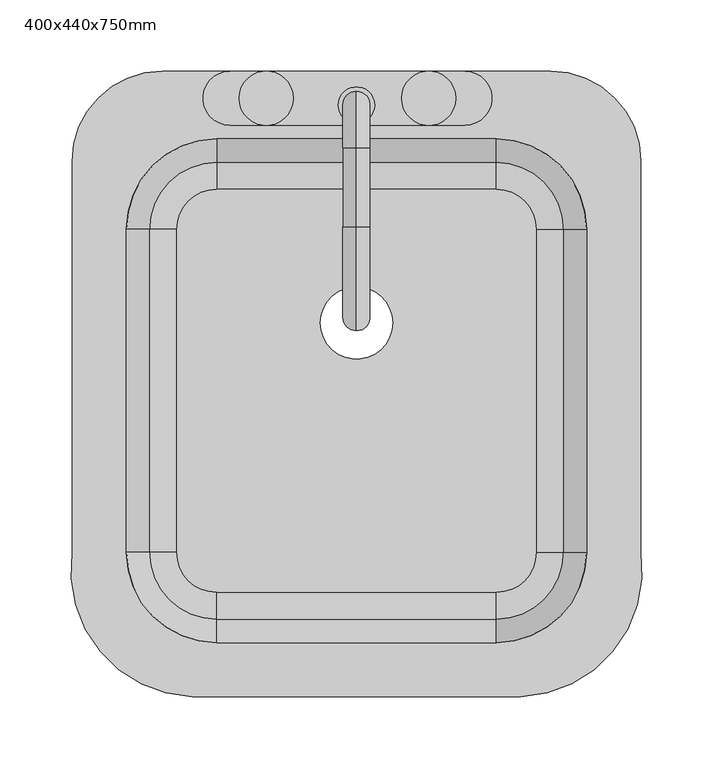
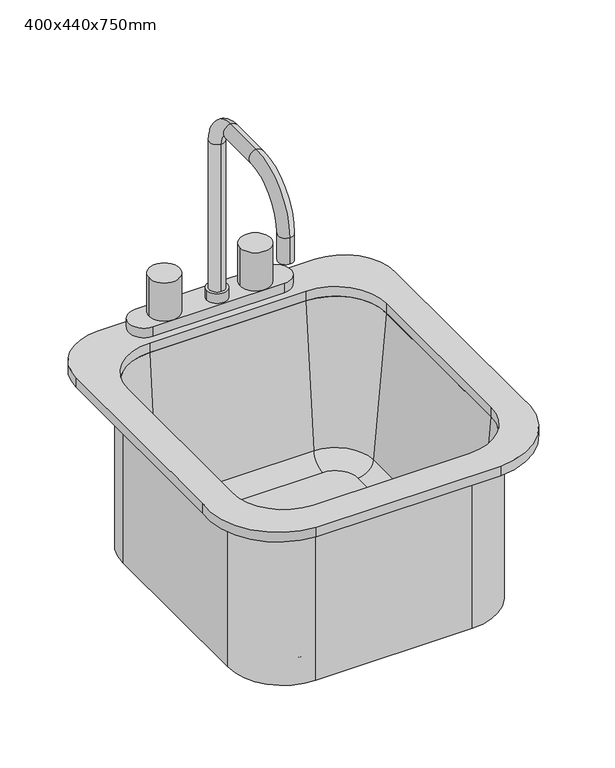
"""IFC4 building model written with IfcOpenShell, lengths in millimetres: flow terminal geometry, ARQ_LAVAPLATOS : 400x440x750mm."""

from ifc_helpers import new_model, si_unit, point, frame, frame_2d, origin, place, context, project, spatial, polyline, circle_curve, ellipse_curve, trimmed, segment, composite_curve, outline, extrude, source, transform, mapped, element, save
from ifc_brep_helpers import plane_surface, cylinder_surface, revolved_surface, advanced_brep


def flow_terminal_400x440x750mm_a241357f(model_context):
    return source(origin(), model_context, "Body", "SolidModel", [
        advanced_brep(
        [(183.9392406, 69.0204011, 534.1), (114.0892406, 138.8704011, 534.1), (114.0892406, 138.8704011, 750.0), (183.9392406, 69.0204011, 750.0), (183.9392406, -158.2545989, 534.1), (114.0892406, -228.1045989, 534.1), (-82.7107594, -228.1045989, 534.1), (-152.5607594, -158.2545989, 534.1), (-152.5607594, 69.0204011, 534.1), (-82.7107594, 138.8704011, 534.1), (-9.7107594, 3.175, 534.1), (41.0892406, 3.175, 534.1), (142.0776588, 69.0204011, 543.625), (114.0892406, 97.0088193, 543.625), (-82.7107594, 97.0088193, 543.625), (-110.6991776, 69.0204011, 543.625), (-110.6991776, -158.2545989, 543.625), (-82.7107594, -186.2430171, 543.625), (114.0892406, -186.2430171, 543.625), (142.0776588, -158.2545989, 543.625), (-9.7107594, 3.175, 543.625), (41.0892406, 3.175, 543.625), (161.0551678, 69.0204011, 561.0146831), (114.0892406, 115.9863283, 561.0146831), (177.5892406, 69.0204011, 750.0), (114.0892406, 132.5204011, 750.0), (183.9392406, -158.2545989, 750.0), (161.0551678, -158.2545989, 561.0146831), (177.5892406, -158.2545989, 750.0), (114.0892406, -228.1045989, 750.0), (114.0892406, -205.2205261, 561.0146831), (114.0892406, -221.7545989, 750.0), (-82.7107594, -228.1045989, 750.0), (-82.7107594, -205.2205261, 561.0146831), (-82.7107594, -221.7545989, 750.0), (-152.5607594, -158.2545989, 750.0), (-129.6766866, -158.2545989, 561.0146831), (-146.2107594, -158.2545989, 750.0), (-152.5607594, 69.0204011, 750.0), (-129.6766866, 69.0204011, 561.0146831), (-146.2107594, 69.0204011, 750.0), (-82.7107594, 138.8704011, 750.0), (-82.7107594, 115.9863283, 561.0146831), (-82.7107594, 132.5204011, 750.0)],
        [
            (0, 1, circle_curve(frame((114.0892406, 69.0204011, 534.1), z_axis=(0.0, 0.0, 1.0), x_axis=(0.0, 1.0, 0.0)), 69.85)),
            (1, 2),
            (2, 3, circle_curve(frame((114.0892406, 69.0204011, 750.0), z_axis=(0.0, 0.0, -1.0), x_axis=(0.0, 1.0, 0.0)), 69.85)),
            (3, 0),
            (0, 4),
            (4, 5, circle_curve(frame((114.0892406, -158.2545989, 534.1), z_axis=(0.0, 0.0, -1.0), x_axis=(1.0, 0.0, 0.0)), 69.85)),
            (5, 6),
            (6, 7, circle_curve(frame((-82.7107594, -158.2545989, 534.1), z_axis=(0.0, 0.0, -1.0), x_axis=(0.0, -1.0, 0.0)), 69.85)),
            (7, 8),
            (8, 9, circle_curve(frame((-82.7107594, 69.0204011, 534.1), z_axis=(0.0, 0.0, -1.0), x_axis=(-1.0, 0.0, 0.0)), 69.85)),
            (9, 1),
            (10, 11, circle_curve(frame((15.6892406, 3.175, 534.1), z_axis=(0.0, 0.0, 1.0), x_axis=(1.0, 0.0, 0.0)), 25.4)),
            (11, 10, circle_curve(frame((15.6892406, 3.175, 534.1), z_axis=(0.0, 0.0, 1.0), x_axis=(1.0, 0.0, 0.0)), 25.4)),
            (12, 13, circle_curve(frame((114.0892406, 69.0204011, 543.625), z_axis=(0.0, 0.0, 1.0), x_axis=(0.0, 1.0, 0.0)), 27.9884182)),
            (13, 14),
            (14, 15, circle_curve(frame((-82.7107594, 69.0204011, 543.625), z_axis=(0.0, 0.0, 1.0), x_axis=(-1.0, 0.0, 0.0)), 27.9884182)),
            (15, 16),
            (16, 17, circle_curve(frame((-82.7107594, -158.2545989, 543.625), z_axis=(0.0, 0.0, 1.0), x_axis=(0.0, -1.0, 0.0)), 27.9884182)),
            (17, 18),
            (18, 19, circle_curve(frame((114.0892406, -158.2545989, 543.625), z_axis=(0.0, 0.0, 1.0), x_axis=(1.0, 0.0, 0.0)), 27.9884182)),
            (19, 12),
            (20, 21, circle_curve(frame((15.6892406, 3.175, 543.625), z_axis=(0.0, 0.0, -1.0), x_axis=(1.0, 0.0, 0.0)), 25.4)),
            (21, 20, circle_curve(frame((15.6892406, 3.175, 543.625), z_axis=(0.0, 0.0, -1.0), x_axis=(1.0, 0.0, 0.0)), 25.4)),
            (12, 22, circle_curve(frame((142.0776588, 69.0204011, 562.675), z_axis=(0.0, -1.0, 0.0), x_axis=(1.0, 0.0, 0.0)), 19.05)),
            (22, 23, circle_curve(frame((114.0892406, 69.0204011, 561.0146831), z_axis=(0.0, 0.0, 1.0), x_axis=(0.0, 1.0, 0.0)), 46.9659272)),
            (23, 13, circle_curve(frame((114.0892406, 97.0088193, 562.675), z_axis=(-1.0, 0.0, 0.0), x_axis=(0.0, 1.0, 0.0)), 19.05)),
            (22, 24),
            (24, 25, circle_curve(frame((114.0892406, 69.0204011, 750.0), z_axis=(0.0, 0.0, 1.0), x_axis=(0.0, 1.0, 0.0)), 63.5)),
            (25, 23),
            (2, 25),
            (24, 3),
            (3, 26),
            (26, 4),
            (19, 27, circle_curve(frame((142.0776588, -158.2545989, 562.675), z_axis=(0.0, -1.0, 0.0), x_axis=(1.0, 0.0, 0.0)), 19.05)),
            (27, 22),
            (27, 28),
            (28, 24),
            (28, 26),
            (26, 29, circle_curve(frame((114.0892406, -158.2545989, 750.0), z_axis=(0.0, 0.0, -1.0), x_axis=(1.0, 0.0, 0.0)), 69.85)),
            (29, 5),
            (18, 30, circle_curve(frame((114.0892406, -186.2430171, 562.675), z_axis=(-1.0, 0.0, 0.0), x_axis=(0.0, -1.0, 0.0)), 19.05)),
            (30, 27, circle_curve(frame((114.0892406, -158.2545989, 561.0146831), z_axis=(0.0, 0.0, 1.0), x_axis=(1.0, 0.0, 0.0)), 46.9659272)),
            (30, 31),
            (31, 28, circle_curve(frame((114.0892406, -158.2545989, 750.0), z_axis=(0.0, 0.0, 1.0), x_axis=(1.0, 0.0, 0.0)), 63.5)),
            (31, 29),
            (29, 32),
            (32, 6),
            (17, 33, circle_curve(frame((-82.7107594, -186.2430171, 562.675), z_axis=(-1.0, 0.0, 0.0), x_axis=(0.0, -1.0, 0.0)), 19.05)),
            (33, 30),
            (33, 34),
            (34, 31),
            (34, 32),
            (32, 35, circle_curve(frame((-82.7107594, -158.2545989, 750.0), z_axis=(0.0, 0.0, -1.0), x_axis=(0.0, -1.0, 0.0)), 69.85)),
            (35, 7),
            (16, 36, circle_curve(frame((-110.6991776, -158.2545989, 562.675), z_axis=(0.0, 1.0, 0.0), x_axis=(-1.0, 0.0, 0.0)), 19.05)),
            (36, 33, circle_curve(frame((-82.7107594, -158.2545989, 561.0146831), z_axis=(0.0, 0.0, 1.0), x_axis=(0.0, -1.0, 0.0)), 46.9659272)),
            (36, 37),
            (37, 34, circle_curve(frame((-82.7107594, -158.2545989, 750.0), z_axis=(0.0, 0.0, 1.0), x_axis=(0.0, -1.0, 0.0)), 63.5)),
            (37, 35),
            (35, 38),
            (38, 8),
            (15, 39, circle_curve(frame((-110.6991776, 69.0204011, 562.675), z_axis=(0.0, 1.0, 0.0), x_axis=(-1.0, 0.0, 0.0)), 19.05)),
            (39, 36),
            (39, 40),
            (40, 37),
            (40, 38),
            (38, 41, circle_curve(frame((-82.7107594, 69.0204011, 750.0), z_axis=(0.0, 0.0, -1.0), x_axis=(-1.0, 0.0, 0.0)), 69.85)),
            (41, 9),
            (14, 42, circle_curve(frame((-82.7107594, 97.0088193, 562.675), z_axis=(1.0, 0.0, 0.0), x_axis=(0.0, 1.0, 0.0)), 19.05)),
            (42, 39, circle_curve(frame((-82.7107594, 69.0204011, 561.0146831), z_axis=(0.0, 0.0, 1.0), x_axis=(-1.0, 0.0, 0.0)), 46.9659272)),
            (42, 43),
            (43, 40, circle_curve(frame((-82.7107594, 69.0204011, 750.0), z_axis=(0.0, 0.0, 1.0), x_axis=(-1.0, 0.0, 0.0)), 63.5)),
            (43, 41),
            (41, 2),
            (23, 42),
            (25, 43),
            (20, 10),
            (11, 21),
        ],
        [
            cylinder_surface(frame((114.0892406, 69.0204011, 0.0), z_axis=(0.0, 0.0, -1.0), x_axis=(0.0, 1.0, 0.0)), 69.85),
            plane_surface(frame((114.0892406, 69.0204011, 534.1), z_axis=(0.0, 0.0, -1.0), x_axis=(0.0, 1.0, 0.0))),
            plane_surface(frame((114.0892406, 69.0204011, 543.625), z_axis=(0.0, 0.0, 1.0), x_axis=(0.0, 1.0, 0.0))),
            revolved_surface(trimmed(ellipse_curve(frame((114.0892406, 97.0088193, 562.675), z_axis=(1.0, 0.0, 0.0), x_axis=(0.0, 1.0, 0.0)), 19.05, 19.05), [point((114.0892406, 97.0088193, 543.625))], [point((114.0892406, 115.9863283, 561.0146831))], True, "CARTESIAN"), (114.0892406, 69.0204011, 0.0), (0.0, 0.0, -1.0)),
            revolved_surface(polyline([(114.0892406, 115.9863283, 561.0146831), (114.0892406, 132.5204011, 750.0)]), (114.0892406, 69.0204011, 0.0), (0.0, 0.0, -1.0)),
            plane_surface(frame((114.0892406, 69.0204011, 750.0), z_axis=(0.0, 0.0, 1.0), x_axis=(0.0, 1.0, 0.0))),
            plane_surface(frame((183.9392406, 69.0204011, 750.0), z_axis=(1.0, 0.0, 0.0), x_axis=(0.0, -1.0, 0.0))),
            revolved_surface(polyline([(161.1276588, -158.25459889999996, 562.675), (161.1276588, 69.0204011, 562.675)]), (142.0776588, 69.0204011, 562.675), (0.0, -1.0, 0.0)),
            plane_surface(frame((161.0551678, 69.0204011, 561.0146831), z_axis=(-0.9961946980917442, 0.0, 0.0871557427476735), x_axis=(0.0, -1.0, 0.0))),
            plane_surface(frame((177.5892406, 69.0204011, 750.0), z_axis=(0.0, 0.0, 1.0), x_axis=(0.0, -1.0, 0.0))),
            cylinder_surface(frame((114.0892406, -158.2545989, 0.0), z_axis=(0.0, 0.0, -1.0), x_axis=(1.0, 0.0, 0.0)), 69.85),
            revolved_surface(trimmed(ellipse_curve(frame((142.0776588, -158.2545989, 562.675), z_axis=(0.0, -1.0, 0.0), x_axis=(1.0, 0.0, 0.0)), 19.05, 19.05), [point((142.0776588, -158.2545989, 543.625))], [point((161.0551678, -158.2545989, 561.0146831))], True, "CARTESIAN"), (114.0892406, -158.2545989, 0.0), (0.0, 0.0, -1.0)),
            revolved_surface(polyline([(161.0551678, -158.2545989, 561.0146831), (177.5892406, -158.2545989, 750.0)]), (114.0892406, -158.2545989, 0.0), (0.0, 0.0, -1.0)),
            plane_surface(frame((114.0892406, -158.2545989, 750.0), z_axis=(0.0, 0.0, 1.0), x_axis=(1.0, 0.0, 0.0))),
            plane_surface(frame((114.0892406, -228.1045989, 750.0), z_axis=(0.0, -1.0, 0.0), x_axis=(-1.0, 0.0, 0.0))),
            revolved_surface(polyline([(-82.71075940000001, -205.29301710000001, 562.675), (114.0892406, -205.29301710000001, 562.675)]), (114.0892406, -186.2430171, 562.675), (-1.0, 0.0, 0.0)),
            plane_surface(frame((114.0892406, -205.2205261, 561.0146831), z_axis=(0.0, 0.9961946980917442, 0.0871557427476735), x_axis=(-1.0, 0.0, 0.0))),
            plane_surface(frame((114.0892406, -221.7545989, 750.0), z_axis=(0.0, 0.0, 1.0), x_axis=(-1.0, 0.0, 0.0))),
            cylinder_surface(frame((-82.7107594, -158.2545989, 0.0), z_axis=(0.0, 0.0, -1.0), x_axis=(0.0, -1.0, 0.0)), 69.85),
            revolved_surface(trimmed(ellipse_curve(frame((-82.7107594, -186.2430171, 562.675), z_axis=(-1.0, 0.0, 0.0), x_axis=(0.0, -1.0, 0.0)), 19.05, 19.05), [point((-82.7107594, -186.2430171, 543.625))], [point((-82.7107594, -205.2205261, 561.0146831))], True, "CARTESIAN"), (-82.7107594, -158.2545989, 0.0), (0.0, 0.0, -1.0)),
            revolved_surface(polyline([(-82.7107594, -205.2205261, 561.0146831), (-82.7107594, -221.7545989, 750.0)]), (-82.7107594, -158.2545989, 0.0), (0.0, 0.0, -1.0)),
            plane_surface(frame((-82.7107594, -158.2545989, 750.0), z_axis=(0.0, 0.0, 1.0), x_axis=(0.0, -1.0, 0.0))),
            plane_surface(frame((-152.5607594, -158.2545989, 750.0), z_axis=(-1.0, 0.0, 0.0), x_axis=(0.0, 1.0, 0.0))),
            revolved_surface(polyline([(-129.7491776, 69.02040109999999, 562.675), (-129.7491776, -158.2545989, 562.675)]), (-110.6991776, -158.2545989, 562.675), (0.0, 1.0, 0.0)),
            plane_surface(frame((-129.6766866, -158.2545989, 561.0146831), z_axis=(0.9961946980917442, 0.0, 0.0871557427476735), x_axis=(0.0, 1.0, 0.0))),
            plane_surface(frame((-146.2107594, -158.2545989, 750.0), z_axis=(0.0, 0.0, 1.0), x_axis=(0.0, 1.0, 0.0))),
            cylinder_surface(frame((-82.7107594, 69.0204011, 0.0), z_axis=(0.0, 0.0, -1.0), x_axis=(-1.0, 0.0, 0.0)), 69.85),
            revolved_surface(trimmed(ellipse_curve(frame((-110.6991776, 69.0204011, 562.675), z_axis=(0.0, 1.0, 0.0), x_axis=(-1.0, 0.0, 0.0)), 19.05, 19.05), [point((-110.6991776, 69.0204011, 543.625))], [point((-129.6766866, 69.0204011, 561.0146831))], True, "CARTESIAN"), (-82.7107594, 69.0204011, 0.0), (0.0, 0.0, -1.0)),
            revolved_surface(polyline([(-129.6766866, 69.0204011, 561.0146831), (-146.2107594, 69.0204011, 750.0)]), (-82.7107594, 69.0204011, 0.0), (0.0, 0.0, -1.0)),
            plane_surface(frame((-82.7107594, 69.0204011, 750.0), z_axis=(0.0, 0.0, 1.0), x_axis=(-1.0, 0.0, 0.0))),
            plane_surface(frame((-82.7107594, 138.8704011, 750.0), z_axis=(0.0, 1.0, 0.0), x_axis=(1.0, 0.0, 0.0))),
            revolved_surface(polyline([(114.08924060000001, 116.0588193, 562.675), (-82.7107594, 116.0588193, 562.675)]), (-82.7107594, 97.0088193, 562.675), (1.0, 0.0, 0.0)),
            plane_surface(frame((-82.7107594, 115.9863283, 561.0146831), z_axis=(0.0, -0.9961946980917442, 0.0871557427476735), x_axis=(1.0, 0.0, 0.0))),
            plane_surface(frame((-82.7107594, 132.5204011, 750.0), z_axis=(0.0, 0.0, 1.0), x_axis=(1.0, 0.0, 0.0))),
            revolved_surface(polyline([(41.0892406, 3.175, 534.1), (41.0892406, 3.175, 543.625)]), (15.6892406, 3.175, 0.0), (0.0, 0.0, -1.0)),
        ],
        [
            (0, [[1, 2, 3, 4]]),
            (1, [[-1, 5, 6, 7, 8, 9, 10, 11], [12, 13]]),
            (2, [[14, 15, 16, 17, 18, 19, 20, 21], [22, 23]]),
            (3, [[-14, 24, 25, 26]]),
            (4, [[-25, 27, 28, 29]]),
            (5, [[-3, 30, -28, 31]]),
            (6, [[-4, 32, 33, -5]]),
            (7, [[-24, -21, 34, 35]]),
            (8, [[-27, -35, 36, 37]]),
            (9, [[-31, -37, 38, -32]]),
            (10, [[-33, 39, 40, -6]]),
            (11, [[-34, -20, 41, 42]]),
            (12, [[-36, -42, 43, 44]]),
            (13, [[-38, -44, 45, -39]]),
            (14, [[-40, 46, 47, -7]]),
            (15, [[-41, -19, 48, 49]]),
            (16, [[-43, -49, 50, 51]]),
            (17, [[-45, -51, 52, -46]]),
            (18, [[-47, 53, 54, -8]]),
            (19, [[-48, -18, 55, 56]]),
            (20, [[-50, -56, 57, 58]]),
            (21, [[-52, -58, 59, -53]]),
            (22, [[-54, 60, 61, -9]]),
            (23, [[-55, -17, 62, 63]]),
            (24, [[-57, -63, 64, 65]]),
            (25, [[-59, -65, 66, -60]]),
            (26, [[-61, 67, 68, -10]]),
            (27, [[-62, -16, 69, 70]]),
            (28, [[-64, -70, 71, 72]]),
            (29, [[-66, -72, 73, -67]]),
            (30, [[-2, -11, -68, 74]]),
            (31, [[-26, 75, -69, -15]]),
            (32, [[-29, 76, -71, -75]]),
            (33, [[-30, -74, -73, -76]]),
            (34, [[-22, 77, -13, 78]]),
            (34, [[-23, -78, -12, -77]]),
        ],
    ),
        advanced_brep(
        [(91.8892406, 180.1454011, 762.7), (91.8892406, 142.0454011, 762.7), (-73.2107594, 142.0454011, 762.7), (-73.2107594, 180.1454011, 762.7), (15.6892406, 165.8579011, 983.3625), (15.6892406, 146.8079011, 983.3625), (15.6892406, 146.8079011, 788.1), (15.6892406, 165.8579011, 788.1), (15.6892406, 126.1704011, 1023.05), (15.6892406, 126.1704011, 1004.0), (15.6892406, 70.6079011, 1023.05), (15.6892406, 70.6079011, 1004.0), (15.6892406, -2.4170989, 950.025), (15.6892406, 16.6329011, 950.025), (15.6892406, -2.4170989, 915.1), (15.6892406, 16.6329011, 915.1), (2.9892406, 156.3329011, 788.1), (28.3892406, 156.3329011, 788.1), (2.9892406, 156.3329011, 775.2), (28.3892406, 156.3329011, 775.2), (91.8892406, 180.1454011, 775.2), (-73.2107594, 180.1454011, 775.2), (-73.2107594, 142.0454011, 775.2), (91.8892406, 142.0454011, 775.2)],
        [
            (0, 1, circle_curve(frame((91.8892406, 161.0954011, 762.7), z_axis=(0.0, 0.0, -1.0), x_axis=(1.0, 0.0, 0.0)), 19.05)),
            (1, 2),
            (2, 3, circle_curve(frame((-73.2107594, 161.0954011, 762.7), z_axis=(0.0, 0.0, -1.0), x_axis=(1.0, 0.0, 0.0)), 19.05)),
            (3, 0),
            (4, 5, circle_curve(frame((15.6892406, 156.3329011, 983.3625), z_axis=(0.0, 0.0, -1.0), x_axis=(0.0, -1.0, 0.0)), 9.525)),
            (5, 6),
            (6, 7, circle_curve(frame((15.6892406, 156.3329011, 788.1), z_axis=(0.0, 0.0, 1.0), x_axis=(0.0, -1.0, 0.0)), 9.525)),
            (7, 4),
            (5, 4, circle_curve(frame((15.6892406, 156.3329011, 983.3625), z_axis=(0.0, 0.0, -1.0), x_axis=(0.0, -1.0, 0.0)), 9.525)),
            (7, 6, circle_curve(frame((15.6892406, 156.3329011, 788.1), z_axis=(0.0, 0.0, 1.0), x_axis=(0.0, -1.0, 0.0)), 9.525)),
            (4, 8, circle_curve(frame((15.6892406, 126.1704011, 983.3625), z_axis=(1.0, 0.0, 0.0), x_axis=(0.0, 1.0, 0.0)), 39.6875)),
            (8, 9, circle_curve(frame((15.6892406, 126.1704011, 1013.525), z_axis=(0.0, 1.0, 0.0), x_axis=(0.0, 0.0, -1.0)), 9.525)),
            (9, 5, circle_curve(frame((15.6892406, 126.1704011, 983.3625), z_axis=(-1.0, 0.0, 0.0), x_axis=(0.0, 1.0, 0.0)), 20.6375)),
            (9, 8, circle_curve(frame((15.6892406, 126.1704011, 1013.525), z_axis=(0.0, 1.0, 0.0), x_axis=(0.0, 0.0, -1.0)), 9.525)),
            (8, 10),
            (10, 11, circle_curve(frame((15.6892406, 70.6079011, 1013.525), z_axis=(0.0, 1.0, 0.0), x_axis=(0.0, 0.0, -1.0)), 9.525)),
            (11, 9),
            (11, 10, circle_curve(frame((15.6892406, 70.6079011, 1013.525), z_axis=(0.0, 1.0, 0.0), x_axis=(0.0, 0.0, -1.0)), 9.525)),
            (10, 12, circle_curve(frame((15.6892406, 70.6079011, 950.025), z_axis=(1.0, 0.0, 0.0), x_axis=(0.0, 0.0, 1.0)), 73.025)),
            (12, 13, circle_curve(frame((15.6892406, 7.1079011, 950.025), z_axis=(0.0, 0.0, 1.0), x_axis=(0.0, 1.0, 0.0)), 9.525)),
            (13, 11, circle_curve(frame((15.6892406, 70.6079011, 950.025), z_axis=(-1.0, 0.0, 0.0), x_axis=(0.0, 0.0, 1.0)), 53.975)),
            (13, 12, circle_curve(frame((15.6892406, 7.1079011, 950.025), z_axis=(0.0, 0.0, 1.0), x_axis=(0.0, 1.0, 0.0)), 9.525)),
            (14, 15, circle_curve(frame((15.6892406, 7.1079011, 915.1), z_axis=(0.0, 0.0, -1.0), x_axis=(0.0, 1.0, 0.0)), 9.525)),
            (15, 14, circle_curve(frame((15.6892406, 7.1079011, 915.1), z_axis=(0.0, 0.0, -1.0), x_axis=(0.0, 1.0, 0.0)), 9.525)),
            (12, 14),
            (15, 13),
            (16, 17, circle_curve(frame((15.6892406, 156.3329011, 788.1), z_axis=(0.0, 0.0, 1.0), x_axis=(1.0, 0.0, 0.0)), 12.7)),
            (17, 16, circle_curve(frame((15.6892406, 156.3329011, 788.1), z_axis=(0.0, 0.0, 1.0), x_axis=(1.0, 0.0, 0.0)), 12.7)),
            (16, 18),
            (18, 19, circle_curve(frame((15.6892406, 156.3329011, 775.2), z_axis=(0.0, 0.0, 1.0), x_axis=(1.0, 0.0, 0.0)), 12.7)),
            (19, 17),
            (19, 18, circle_curve(frame((15.6892406, 156.3329011, 775.2), z_axis=(0.0, 0.0, 1.0), x_axis=(1.0, 0.0, 0.0)), 12.7)),
            (20, 21),
            (21, 22, circle_curve(frame((-73.2107594, 161.0954011, 775.2), z_axis=(0.0, 0.0, 1.0), x_axis=(1.0, 0.0, 0.0)), 19.05)),
            (22, 23),
            (23, 20, circle_curve(frame((91.8892406, 161.0954011, 775.2), z_axis=(0.0, 0.0, 1.0), x_axis=(1.0, 0.0, 0.0)), 19.05)),
            (20, 0),
            (3, 21),
            (2, 22),
            (1, 23),
        ],
        [
            plane_surface(frame((15.6892406, 146.8079011, 762.7), z_axis=(0.0, 0.0, -1.0), x_axis=(1.0, 0.0, 0.0))),
            cylinder_surface(frame((15.6892406, 156.3329011, 762.7), z_axis=(0.0, 0.0, -1.0), x_axis=(0.0, -1.0, 0.0)), 9.525),
            revolved_surface(trimmed(ellipse_curve(frame((15.6892406, 156.3329011, 983.3625), z_axis=(0.0, 0.0, -1.0), x_axis=(0.0, -1.0, 0.0)), 9.525, 9.525), [point((15.6892406, 165.8579011, 983.3625))], [point((15.6892406, 146.8079011, 983.3625))], True, "CARTESIAN"), (15.6892406, 126.1704011, 983.3625), (1.0, 0.0, 0.0)),
            revolved_surface(trimmed(ellipse_curve(frame((15.6892406, 156.3329011, 983.3625), z_axis=(0.0, 0.0, -1.0), x_axis=(0.0, -1.0, 0.0)), 9.525, 9.525), [point((15.6892406, 146.8079011, 983.3625))], [point((15.6892406, 165.8579011, 983.3625))], True, "CARTESIAN"), (15.6892406, 126.1704011, 983.3625), (1.0, 0.0, 0.0)),
            cylinder_surface(frame((15.6892406, 126.1704011, 1013.525), z_axis=(0.0, 1.0, 0.0), x_axis=(0.0, 0.0, -1.0)), 9.525),
            revolved_surface(trimmed(ellipse_curve(frame((15.6892406, 70.6079011, 1013.525), z_axis=(0.0, 1.0, 0.0), x_axis=(0.0, 0.0, -1.0)), 9.525, 9.525), [point((15.6892406, 70.6079011, 1023.05))], [point((15.6892406, 70.6079011, 1004.0))], True, "CARTESIAN"), (15.6892406, 70.6079011, 950.025), (1.0, 0.0, 0.0)),
            revolved_surface(trimmed(ellipse_curve(frame((15.6892406, 70.6079011, 1013.525), z_axis=(0.0, 1.0, 0.0), x_axis=(0.0, 0.0, -1.0)), 9.525, 9.525), [point((15.6892406, 70.6079011, 1004.0))], [point((15.6892406, 70.6079011, 1023.05))], True, "CARTESIAN"), (15.6892406, 70.6079011, 950.025), (1.0, 0.0, 0.0)),
            plane_surface(frame((15.6892406, -2.4170989, 915.1), z_axis=(0.0, 0.0, -1.0), x_axis=(-1.0, 0.0, 0.0))),
            cylinder_surface(frame((15.6892406, 7.1079011, 950.025), z_axis=(0.0, 0.0, 1.0), x_axis=(0.0, 1.0, 0.0)), 9.525),
            plane_surface(frame((28.3892406, 156.3329011, 788.1), z_axis=(0.0, 0.0, 1.0), x_axis=(0.0, 1.0, 0.0))),
            cylinder_surface(frame((15.6892406, 156.3329011, 762.7), z_axis=(0.0, 0.0, 1.0), x_axis=(1.0, 0.0, 0.0)), 12.7),
            plane_surface(frame((-73.2107594, 180.1454011, 775.2), z_axis=(0.0, 0.0, 1.0), x_axis=(-1.0, 0.0, 0.0))),
            plane_surface(frame((91.8892406, 180.1454011, 775.2), z_axis=(0.0, 1.0, 0.0), x_axis=(0.0, 0.0, -1.0))),
            cylinder_surface(frame((-73.2107594, 161.0954011, 762.7), z_axis=(0.0, 0.0, 1.0), x_axis=(1.0, 0.0, 0.0)), 19.05),
            plane_surface(frame((-73.2107594, 142.0454011, 775.2), z_axis=(0.0, -1.0, 0.0), x_axis=(0.0, 0.0, -1.0))),
            cylinder_surface(frame((91.8892406, 161.0954011, 762.7), z_axis=(0.0, 0.0, 1.0), x_axis=(1.0, 0.0, 0.0)), 19.05),
        ],
        [
            (0, [[1, 2, 3, 4]]),
            (1, [[5, 6, 7, 8]]),
            (1, [[9, -8, 10, -6]]),
            (2, [[-5, 11, 12, 13]]),
            (3, [[-9, -13, 14, -11]]),
            (4, [[-12, 15, 16, 17]]),
            (4, [[-14, -17, 18, -15]]),
            (5, [[-16, 19, 20, 21]]),
            (6, [[-18, -21, 22, -19]]),
            (7, [[23, 24]]),
            (8, [[-20, 25, -24, 26]]),
            (8, [[-22, -26, -23, -25]]),
            (9, [[27, 28], [-7, -10]]),
            (10, [[-27, 29, 30, 31]]),
            (10, [[-28, -31, 32, -29]]),
            (11, [[33, 34, 35, 36], [-30, -32]]),
            (12, [[-33, 37, -4, 38]]),
            (13, [[-34, -38, -3, 39]]),
            (14, [[-35, -39, -2, 40]]),
            (15, [[-36, -40, -1, -37]]),
        ],
    ),
        extrude(outline(composite_curve([segment(trimmed(circle_curve(frame_2d((-47.8107594, 161.0954011)), 19.05), [point((-66.8607594, 161.0954011))], [point((-28.7607594, 161.0954011))], False, "CARTESIAN"), True, "CONTINUOUS"), segment(trimmed(circle_curve(frame_2d((-47.8107594, 161.0954011)), 19.05), [point((-28.7607594, 161.0954011))], [point((-66.8607594, 161.0954011))], False, "CARTESIAN"), True, "CONTINUOUS")], self_intersect=False)), frame((0.0, 0.0, 762.7), z_axis=(0.0, 0.0, 1.0), x_axis=(1.0, 0.0, 0.0)), (0.0, 0.0, 1.0), 63.5),
        extrude(outline(composite_curve([segment(trimmed(circle_curve(frame_2d((66.4892406, 161.0954011)), 19.05), [point((47.4392406, 161.0954011))], [point((85.5392406, 161.0954011))], False, "CARTESIAN"), True, "CONTINUOUS"), segment(trimmed(circle_curve(frame_2d((66.4892406, 161.0954011)), 19.05), [point((85.5392406, 161.0954011))], [point((47.4392406, 161.0954011))], False, "CARTESIAN"), True, "CONTINUOUS")], self_intersect=False)), frame((0.0, 0.0, 762.7), z_axis=(0.0, 0.0, 1.0), x_axis=(1.0, 0.0, 0.0)), (0.0, 0.0, 1.0), 63.5),
        extrude(outline(composite_curve([segment(trimmed(circle_curve(frame_2d((-96.1534746, -170.8793432)), 89.0566732), [point((-99.9606923, -259.8545989))], [point((-184.3107593, -158.2545982))], False, "CARTESIAN"), True, "CONTINUOUS"), segment(polyline([(-184.3107593, -158.2545982), (-184.3107593, 116.6454011)]), True, "CONTINUOUS"), segment(trimmed(circle_curve(frame_2d((-120.8107593, 116.6454011)), 63.5), [point((-184.3107593, 116.6454011))], [point((-120.8107593, 180.1454011))], False, "CARTESIAN"), True, "CONTINUOUS"), segment(polyline([(-120.8107593, 180.1454011), (152.1892406, 180.1454011)]), True, "CONTINUOUS"), segment(trimmed(circle_curve(frame_2d((152.1892406, 116.6454011)), 63.5), [point((152.1892406, 180.1454011))], [point((215.6892406, 116.6454011))], False, "CARTESIAN"), True, "CONTINUOUS"), segment(polyline([(215.6892406, 116.6454011), (215.6892406, -158.2545989)]), True, "CONTINUOUS"), segment(trimmed(circle_curve(frame_2d((127.5319557, -170.8793432)), 89.0566732), [point((215.6892406, -158.2545989))], [point((131.3391735, -259.8545989))], False, "CARTESIAN"), True, "CONTINUOUS"), segment(polyline([(131.3391735, -259.8545989), (-99.9606923, -259.8545989)]), True, "CONTINUOUS")], self_intersect=False), holes=[composite_curve([segment(polyline([(114.0892406, 132.5204011), (-82.7107594, 132.5204011)]), True, "CONTINUOUS"), segment(trimmed(circle_curve(frame_2d((-82.7107594, 69.0204011)), 63.5), [point((-82.7107594, 132.5204011))], [point((-146.2107594, 69.0204011))], True, "CARTESIAN"), True, "CONTINUOUS"), segment(polyline([(-146.2107594, 69.0204011), (-146.2107594, -158.2545989)]), True, "CONTINUOUS"), segment(trimmed(circle_curve(frame_2d((-82.7107594, -158.2545989)), 63.5), [point((-146.2107594, -158.2545989))], [point((-82.7107594, -221.7545989))], True, "CARTESIAN"), True, "CONTINUOUS"), segment(polyline([(-82.7107594, -221.7545989), (114.0892406, -221.7545989)]), True, "CONTINUOUS"), segment(trimmed(circle_curve(frame_2d((114.0892406, -158.2545989)), 63.5), [point((114.0892406, -221.7545989))], [point((177.5892406, -158.2545989))], True, "CARTESIAN"), True, "CONTINUOUS"), segment(polyline([(177.5892406, -158.2545989), (177.5892406, 69.0204011)]), True, "CONTINUOUS"), segment(trimmed(circle_curve(frame_2d((114.0892406, 69.0204011)), 63.5), [point((177.5892406, 69.0204011))], [point((114.0892406, 132.5204011))], True, "CARTESIAN"), True, "CONTINUOUS")], self_intersect=False)]), frame((0.0, 0.0, 750.0), z_axis=(0.0, 0.0, 1.0), x_axis=(1.0, 0.0, 0.0)), (0.0, 0.0, 1.0), 12.7),
    ])


if __name__ == "__main__":
    model = new_model("IFC4")
    model_context = context("Model", 3, world=origin())
    ifc_project = project(units=[si_unit("LENGTHUNIT", "METRE", prefix="MILLI")], contexts=[model_context])
    site = spatial("IfcSite", under=ifc_project)
    building = spatial("IfcBuilding", under=site)
    placement = place(None, origin())
    flow_terminal_400x440x750mm_shape = flow_terminal_400x440x750mm_a241357f(model_context)
    element("IfcFlowTerminal", 1, ObjectType="ARQ_LAVAPLATOS : 400x440x750mm", at=placement, inside=building, context=model_context, shape_type="MappedRepresentation", body=[
        mapped(flow_terminal_400x440x750mm_shape, transform((0.0, 0.0, 0.0), x_axis=(1.0, 0.0, 0.0), y_axis=(0.0, 1.0, 0.0), z_axis=(0.0, 0.0, 1.0))),
    ])
    save(model, "model.ifc")
